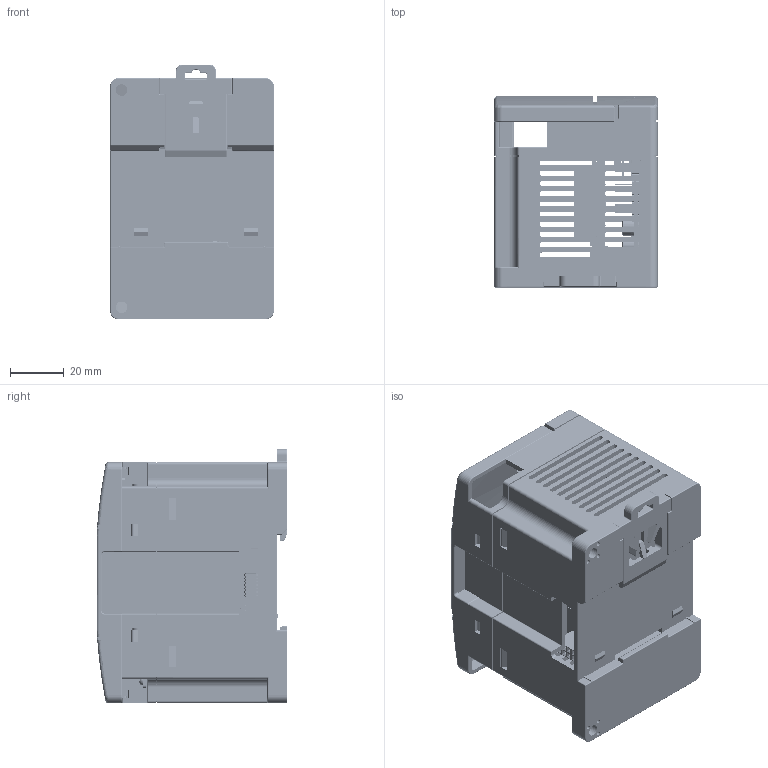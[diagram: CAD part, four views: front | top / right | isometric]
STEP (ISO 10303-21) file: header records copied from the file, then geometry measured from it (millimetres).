
FILE_DESCRIPTION((''),'2;1');
FILE_NAME('IVC1-5AM_ASM','2022-07-04T17:28:14',('Administrator'),(''),'CREO PARAMETRIC BY PTC INC, 2019080','CREO PARAMETRIC BY PTC INC, 2019080','');
FILE_SCHEMA(('CONFIG_CONTROL_DESIGN'));
Products named in the file (48): 80740067; 80740067SY5_ASM; 80880052; 40810040_ASM; 80740070; 80740070SY5_ASM; 80880065; 80880065SY5_ASM; 80880064; 86400014; 86400015; 40810042_ASM; 3D; E-SR0805; E-SC0805; E-SR1206; E-SR0603; E-SC0603; E-SR1210; E-SC1206; E-SC1210; E-SOP5-50-173A; E-SOP4-100-173A; E-SOT23; E-SL0805A; E-SOT89; E-SOP14-50-155; E-SOP8-50-157; E-TB0210-300-280-TM; E-HEAD0210-TF; E-SOP10-20-122B; 3D_ASM; 4DAU1; E-SD0805; E-SP-SMD45; E-SX2-1205; E-SD2216; E-QFP64-050-1010; E-SOT-DPAK; E-SOP20-50-300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
Assembly tree (414 placements, depth 4):
  IVC1-5AM_ASM
    40810040_ASM
      80740067SY5_ASM
        80740067
      80880052
    40810042_ASM
      80740070SY5_ASM
        80740070
      80880065SY5_ASM
        80880065
      80880064
      86400014
      86400015
    3D_ASM
      3D
      E-SR0805  x38
      E-SC0805  x16
      E-SR1206  x2
      E-SR0603  x56
      E-SC0603  x52
      E-SR1210  x8
      E-SC1206  x5
      E-SC1210  x21
      E-SOP5-50-173A  x3
      E-SOP4-100-173A  x2
      E-SOT23  x30
      E-SL0805A  x12
      E-SOT89  x4
      E-SOP14-50-155  x2
      E-SOP8-50-157  x6
      E-TB0210-300-280-TM
      E-HEAD0210-TF  x2
      E-SOP10-20-122B
    4DAU1_ASM
      4DAU1
      E-SR0603  x63
      E-SD0805  x3
      E-SC0603  x47
      E-SP-SMD45  x5
      E-SOT23
      E-SX2-1205
      E-SD2216
      E-QFP64-050-1010
      E-SOT-DPAK
      E-SOP20-50-300
      E-HEAD0108-TA
      E-HEAD0207-TB
      E-HEAD0210-TB
      E-IDC14-ORM
      E-SOP14-50-155  x4
      E-SOP14-26-170  x2
      E-SCD6_3X5_7  x2
      E-SC1206
Bounding box: 61 x 71.2 x 95 mm (x, y, z)
Volume: 102563.2 mm3; surface area: 122179.7 mm2
Topology: 407 solids, 407 shells, 20496 faces, 50825 edges, 31942 vertices
Faces by surface type: plane 12907, cylinder 6022, sphere 1362, torus 144, bspline 53, cone 8
Entity records: 230236 total; most frequent: CARTESIAN_POINT 44686, ORIENTED_EDGE 38268, DIRECTION 38242, EDGE_CURVE 19134, VECTOR 14784, LINE 14784, VERTEX_POINT 12284, AXIS2_PLACEMENT_3D 11729
